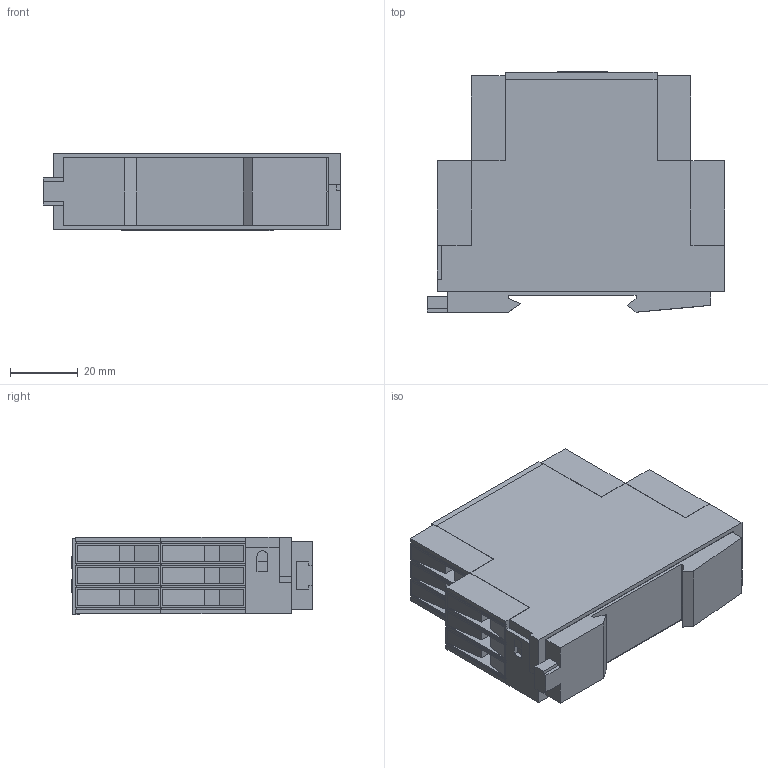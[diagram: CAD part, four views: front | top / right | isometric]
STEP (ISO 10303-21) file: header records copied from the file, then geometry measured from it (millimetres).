
FILE_DESCRIPTION (( 'STEP AP203' ), '1' );
FILE_NAME ('KR_GY200_2.STEP', '2017-02-13T16:40:45', ( '' ), ( '' ), 'SwSTEP 2.0', 'SolidWorks 2013', '' );
FILE_SCHEMA (( 'CONFIG_CONTROL_DESIGN' ));
Length unit declared in the file: millimetre
Products named in the file (7): zaklad_22_5; KR_GY200_2; viko; Nap_gy_1; Krab_1; Svorka_2; klip_din
Assembly tree (10 placements, depth 3):
  KR_GY200_2
    zaklad_22_5
      Krab_1  x2
      viko
      klip_din
    Svorka_2  x4
    Nap_gy_1
Bounding box: 87.8 x 70.9 x 22.89 mm (x, y, z)
Volume: 42558.1 mm3; surface area: 39288.9 mm2
Topology: 18 solids, 18 shells, 680 faces, 1836 edges, 1224 vertices
Faces by surface type: plane 593, bspline 57, cylinder 30
Entity records: 14699 total; most frequent: CARTESIAN_POINT 5861, ORIENTED_EDGE 1776, DIRECTION 1390, EDGE_CURVE 888, LINE 740, VECTOR 740, VERTEX_POINT 592, EDGE_LOOP 356
